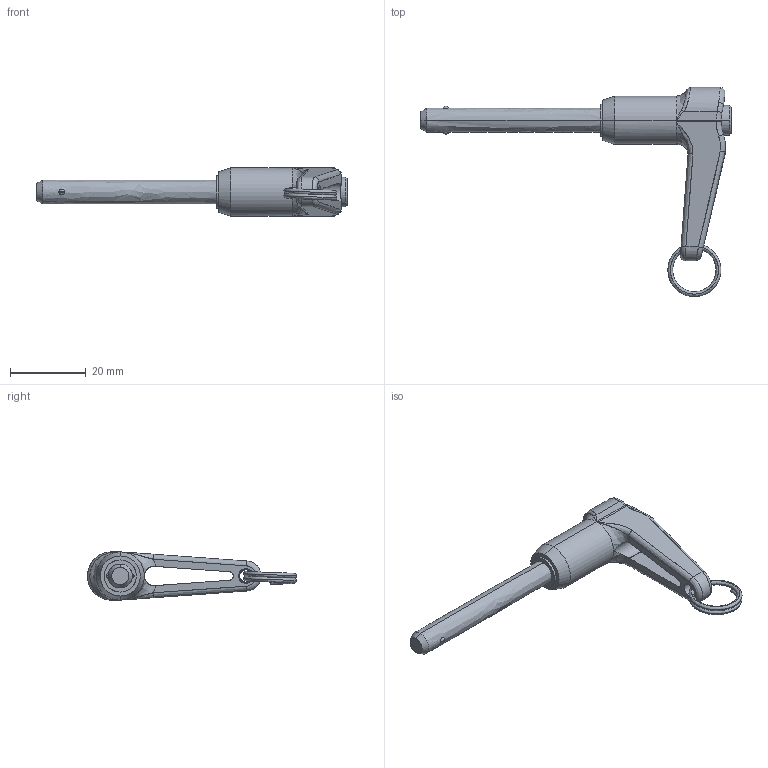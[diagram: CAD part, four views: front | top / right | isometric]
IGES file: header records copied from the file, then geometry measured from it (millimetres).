
Start section: SolidWorks IGES file using analytic representation for surfaces
Global section: file name: C:\Documents and Settings\IANO\My Documents\Wix and Auto CAD Work\CAD Models\Parametric Models\Wix Models\30000\33620_v2\33620_v2_20160606_IGES\33620.B016.igs; native system: SolidWorks 2009; preprocessor: SolidWorks 2009; author: IANO; date: 160615.125713; units: inch
Bounding box: 81.88 x 55.09 x 12.7 mm (x, y, z)
Surface area: 5647.5 mm2 (no closed solid volume)
Topology: 0 solids, 0 shells, 83 faces, 1170 edges, 1168 vertices
Faces by surface type: bspline 53, revolution 30
